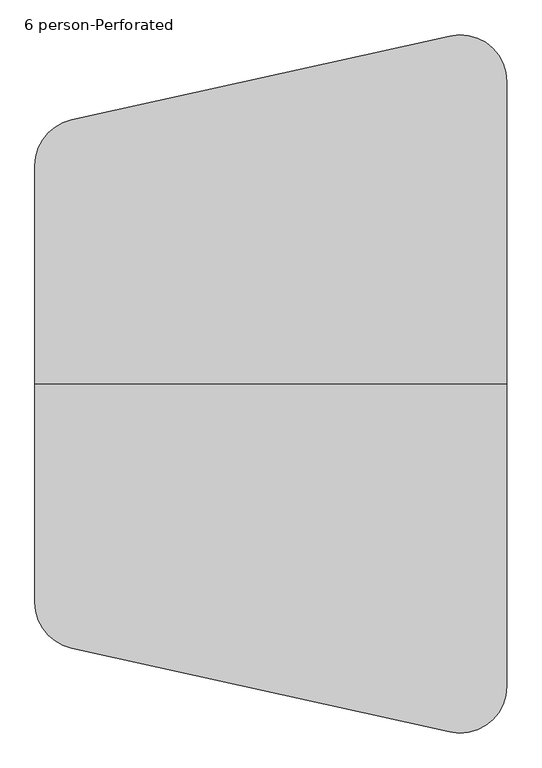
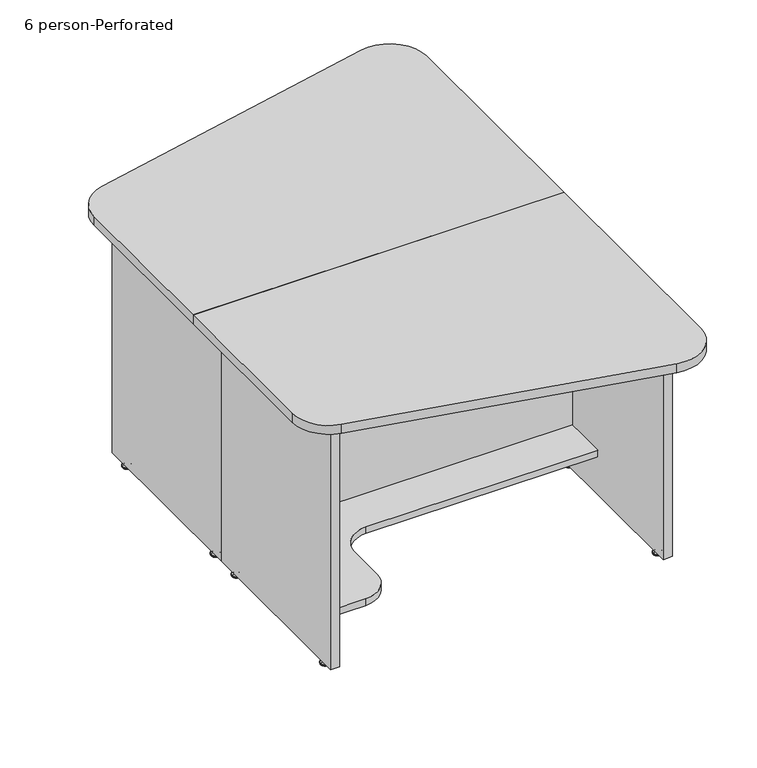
"""IFC4 building model written with IfcOpenShell, lengths in millimetres: furniture geometry, Nova Solutions - Collaboration Table - Keystone_6-7 person : 6 person-Perforated."""

from ifc_helpers import new_model, si_unit, point, frame, frame_2d, origin, place, context, project, spatial, polyline, circle_curve, ellipse_curve, trimmed, segment, composite_curve, outline, extrude, source, transform, mapped, element, save
from ifc_brep_helpers import plane_surface, cylinder_surface, revolved_surface, advanced_brep


def furniture_6_person_perforated_d60ef6a5(model_context):
    return source(origin(), model_context, "Body", "SolidModel", [
        extrude(outline(polyline([(736.3, -497.838), (736.3, -1392.138), (507.4, -1392.138), (507.4, -1221.138), (145.5, -1221.138), (145.5, -497.838), (736.3, -497.838)])), frame((0.0, 69.345, 0.0), z_axis=(0.0, 1.0, 0.0), x_axis=(0.0, 0.0, 1.0)), (0.0, 0.0, 1.0), 19.2),
        extrude(outline(composite_curve([segment(polyline([(-1392.138, 469.9075), (-1290.538, 469.9075)]), True, "CONTINUOUS"), segment(trimmed(circle_curve(frame_2d((-1290.538, 393.7075)), 76.2), [point((-1290.538, 469.9075))], [point((-1214.338, 393.7075))], False, "CARTESIAN"), True, "CONTINUOUS"), segment(polyline([(-1214.338, 393.7075), (-1214.338, 286.545)]), True, "CONTINUOUS"), segment(trimmed(circle_curve(frame_2d((-1138.138, 286.545)), 76.2), [point((-1214.338, 286.545))], [point((-1138.138, 210.345))], True, "CARTESIAN"), True, "CONTINUOUS"), segment(polyline([(-1138.138, 210.345), (-497.838, 210.345), (-497.838, 14.045), (-1392.138, 14.045), (-1392.138, 469.9075)]), True, "CONTINUOUS")], self_intersect=False)), frame((0.0, 0.0, 126.3), z_axis=(0.0, 0.0, 1.0), x_axis=(1.0, 0.0, 0.0)), (0.0, 0.0, 1.0), 19.2),
        advanced_brep(
        [(-1411.6656506, 474.3309375, 11.1125), (-1398.3103494, 474.3309375, 11.1125), (-1404.988, 474.3309375, 11.1125), (-1411.6656506, 474.3309375, 9.525), (-1398.3103494, 474.3309375, 9.525), (-1416.8735135, 474.3309375, 4.7748687), (-1393.1024865, 474.3309375, 4.7748687), (-1417.7346506, 474.3309375, 3.989419), (-1392.2413494, 474.3309375, 3.989419), (-1417.7346506, 474.3309375, 3.175), (-1392.2413494, 474.3309375, 3.175), (-1416.8839119, 474.3309375, 0.0), (-1393.0920881, 474.3309375, 0.0), (-1404.988, 474.3309375, 0.0)],
        [
            (0, 1, circle_curve(frame((-1404.988, 474.3309375, 11.1125), z_axis=(0.0, 0.0, 1.0), x_axis=(1.0, 0.0, 0.0)), 6.6776506)),
            (1, 2),
            (2, 0),
            (1, 0, circle_curve(frame((-1404.988, 474.3309375, 11.1125), z_axis=(0.0, 0.0, 1.0), x_axis=(1.0, 0.0, 0.0)), 6.6776506)),
            (3, 4, circle_curve(frame((-1404.988, 474.3309375, 9.525), z_axis=(0.0, 0.0, 1.0), x_axis=(1.0, 0.0, 0.0)), 6.6776506)),
            (4, 1),
            (0, 3),
            (4, 3, circle_curve(frame((-1404.988, 474.3309375, 9.525), z_axis=(0.0, 0.0, 1.0), x_axis=(1.0, 0.0, 0.0)), 6.6776506)),
            (5, 6, circle_curve(frame((-1404.988, 474.3309375, 4.7748687), z_axis=(0.0, 0.0, 1.0), x_axis=(1.0, 0.0, 0.0)), 11.8855135)),
            (6, 4, circle_curve(frame((-1392.0559373, 474.3309375, 11.1521822), z_axis=(0.0, 1.0, 0.0), x_axis=(-1.0, 0.0, 0.0)), 6.462615)),
            (3, 5, circle_curve(frame((-1417.9200627, 474.3309375, 11.1521822), z_axis=(0.0, 1.0, 0.0), x_axis=(1.0, 0.0, 0.0)), 6.462615)),
            (6, 5, circle_curve(frame((-1404.988, 474.3309375, 4.7748687), z_axis=(0.0, 0.0, 1.0), x_axis=(1.0, 0.0, 0.0)), 11.8855135)),
            (7, 8, circle_curve(frame((-1404.988, 474.3309375, 3.989419), z_axis=(0.0, 0.0, 1.0), x_axis=(1.0, 0.0, 0.0)), 12.7466506)),
            (8, 6, circle_curve(frame((-1393.2755368, 474.3309375, 3.7203591), z_axis=(0.0, -1.0, 0.0), x_axis=(-1.0, 0.0, 0.0)), 1.0686145)),
            (5, 7, circle_curve(frame((-1416.7004632, 474.3309375, 3.7203591), z_axis=(0.0, -1.0, 0.0), x_axis=(1.0, 0.0, 0.0)), 1.0686145)),
            (8, 7, circle_curve(frame((-1404.988, 474.3309375, 3.989419), z_axis=(0.0, 0.0, 1.0), x_axis=(1.0, 0.0, 0.0)), 12.7466506)),
            (9, 10, circle_curve(frame((-1404.988, 474.3309375, 3.175), z_axis=(0.0, 0.0, 1.0), x_axis=(1.0, 0.0, 0.0)), 12.7466506)),
            (10, 8),
            (7, 9),
            (10, 9, circle_curve(frame((-1404.988, 474.3309375, 3.175), z_axis=(0.0, 0.0, 1.0), x_axis=(1.0, 0.0, 0.0)), 12.7466506)),
            (11, 12, circle_curve(frame((-1404.988, 474.3309375, 0.0), z_axis=(0.0, 0.0, 1.0), x_axis=(1.0, 0.0, 0.0)), 11.8959119)),
            (12, 10),
            (9, 11),
            (12, 11, circle_curve(frame((-1404.988, 474.3309375, 0.0), z_axis=(0.0, 0.0, 1.0), x_axis=(1.0, 0.0, 0.0)), 11.8959119)),
            (13, 12),
            (11, 13),
        ],
        [
            plane_surface(frame((-1404.988, 474.3309375, 11.1125), z_axis=(0.0, 0.0, 1.0), x_axis=(1.0, 0.0, 0.0))),
            cylinder_surface(frame((-1404.988, 474.3309375, 43.2095994), z_axis=(0.0, 0.0, -1.0), x_axis=(1.0, 0.0, 0.0)), 6.6776506),
            revolved_surface(trimmed(ellipse_curve(frame((-1392.0559373, 474.3309375, 11.1521822), z_axis=(0.0, -1.0, 0.0), x_axis=(-1.0, 0.0, 0.0)), 6.462615, 6.462615), [point((-1398.3103494, 474.3309375, 9.525))], [point((-1393.1024865, 474.3309375, 4.7748687))], True, "CARTESIAN"), (-1404.988, 474.3309375, 43.2095994), (0.0, 0.0, -1.0)),
            revolved_surface(trimmed(ellipse_curve(frame((-1393.2755368, 474.3309375, 3.7203591), z_axis=(0.0, 1.0, 0.0), x_axis=(-1.0, 0.0, 0.0)), 1.0686145, 1.0686145), [point((-1393.1024865, 474.3309375, 4.7748687))], [point((-1392.2413494, 474.3309375, 3.989419))], True, "CARTESIAN"), (-1404.988, 474.3309375, 43.2095994), (0.0, 0.0, -1.0)),
            cylinder_surface(frame((-1404.988, 474.3309375, 43.2095994), z_axis=(0.0, 0.0, -1.0), x_axis=(1.0, 0.0, 0.0)), 12.7466506),
            revolved_surface(polyline([(-1392.2413494, 474.3309375, 3.175), (-1393.0920881, 474.3309375, 0.0)]), (-1404.988, 474.3309375, 43.2095994), (0.0, 0.0, -1.0)),
            plane_surface(frame((-1404.988, 474.3309375, 0.0), z_axis=(0.0, 0.0, -1.0), x_axis=(1.0, 0.0, 0.0))),
        ],
        [
            (0, [[1, 2, 3]]),
            (0, [[4, -3, -2]]),
            (1, [[5, 6, -1, 7]]),
            (1, [[8, -7, -4, -6]]),
            (2, [[9, 10, -5, 11]]),
            (2, [[12, -11, -8, -10]]),
            (3, [[13, 14, -9, 15]]),
            (3, [[16, -15, -12, -14]]),
            (4, [[17, 18, -13, 19]]),
            (4, [[20, -19, -16, -18]]),
            (5, [[21, 22, -17, 23]]),
            (5, [[24, -23, -20, -22]]),
            (6, [[25, -21, 26]]),
            (6, [[-26, -24, -25]]),
        ],
    ),
        advanced_brep(
        [(-1411.6656506, 50.3590625, 11.1125), (-1398.3103494, 50.3590625, 11.1125), (-1404.988, 50.3590625, 11.1125), (-1411.6656506, 50.3590625, 9.525), (-1398.3103494, 50.3590625, 9.525), (-1416.8735135, 50.3590625, 4.7748687), (-1393.1024865, 50.3590625, 4.7748687), (-1417.7346506, 50.3590625, 3.989419), (-1392.2413494, 50.3590625, 3.989419), (-1417.7346506, 50.3590625, 3.175), (-1392.2413494, 50.3590625, 3.175), (-1416.8839119, 50.3590625, 0.0), (-1393.0920881, 50.3590625, 0.0), (-1404.988, 50.3590625, 0.0)],
        [
            (0, 1, circle_curve(frame((-1404.988, 50.3590625, 11.1125), z_axis=(0.0, 0.0, 1.0), x_axis=(1.0, 0.0, 0.0)), 6.6776506)),
            (1, 2),
            (2, 0),
            (1, 0, circle_curve(frame((-1404.988, 50.3590625, 11.1125), z_axis=(0.0, 0.0, 1.0), x_axis=(1.0, 0.0, 0.0)), 6.6776506)),
            (3, 4, circle_curve(frame((-1404.988, 50.3590625, 9.525), z_axis=(0.0, 0.0, 1.0), x_axis=(1.0, 0.0, 0.0)), 6.6776506)),
            (4, 1),
            (0, 3),
            (4, 3, circle_curve(frame((-1404.988, 50.3590625, 9.525), z_axis=(0.0, 0.0, 1.0), x_axis=(1.0, 0.0, 0.0)), 6.6776506)),
            (5, 6, circle_curve(frame((-1404.988, 50.3590625, 4.7748687), z_axis=(0.0, 0.0, 1.0), x_axis=(1.0, 0.0, 0.0)), 11.8855135)),
            (6, 4, circle_curve(frame((-1392.0559373, 50.3590625, 11.1521822), z_axis=(0.0, 1.0, 0.0), x_axis=(-1.0, 0.0, 0.0)), 6.462615)),
            (3, 5, circle_curve(frame((-1417.9200627, 50.3590625, 11.1521822), z_axis=(0.0, 1.0, 0.0), x_axis=(1.0, 0.0, 0.0)), 6.462615)),
            (6, 5, circle_curve(frame((-1404.988, 50.3590625, 4.7748687), z_axis=(0.0, 0.0, 1.0), x_axis=(1.0, 0.0, 0.0)), 11.8855135)),
            (7, 8, circle_curve(frame((-1404.988, 50.3590625, 3.989419), z_axis=(0.0, 0.0, 1.0), x_axis=(1.0, 0.0, 0.0)), 12.7466506)),
            (8, 6, circle_curve(frame((-1393.2755368, 50.3590625, 3.7203591), z_axis=(0.0, -1.0, 0.0), x_axis=(-1.0, 0.0, 0.0)), 1.0686145)),
            (5, 7, circle_curve(frame((-1416.7004632, 50.3590625, 3.7203591), z_axis=(0.0, -1.0, 0.0), x_axis=(1.0, 0.0, 0.0)), 1.0686145)),
            (8, 7, circle_curve(frame((-1404.988, 50.3590625, 3.989419), z_axis=(0.0, 0.0, 1.0), x_axis=(1.0, 0.0, 0.0)), 12.7466506)),
            (9, 10, circle_curve(frame((-1404.988, 50.3590625, 3.175), z_axis=(0.0, 0.0, 1.0), x_axis=(1.0, 0.0, 0.0)), 12.7466506)),
            (10, 8),
            (7, 9),
            (10, 9, circle_curve(frame((-1404.988, 50.3590625, 3.175), z_axis=(0.0, 0.0, 1.0), x_axis=(1.0, 0.0, 0.0)), 12.7466506)),
            (11, 12, circle_curve(frame((-1404.988, 50.3590625, 0.0), z_axis=(0.0, 0.0, 1.0), x_axis=(1.0, 0.0, 0.0)), 11.8959119)),
            (12, 10),
            (9, 11),
            (12, 11, circle_curve(frame((-1404.988, 50.3590625, 0.0), z_axis=(0.0, 0.0, 1.0), x_axis=(1.0, 0.0, 0.0)), 11.8959119)),
            (13, 12),
            (11, 13),
        ],
        [
            plane_surface(frame((-1404.988, 50.3590625, 11.1125), z_axis=(0.0, 0.0, 1.0), x_axis=(1.0, 0.0, 0.0))),
            cylinder_surface(frame((-1404.988, 50.3590625, 43.2095994), z_axis=(0.0, 0.0, -1.0), x_axis=(1.0, 0.0, 0.0)), 6.6776506),
            revolved_surface(trimmed(ellipse_curve(frame((-1392.0559373, 50.3590625, 11.1521822), z_axis=(0.0, -1.0, 0.0), x_axis=(-1.0, 0.0, 0.0)), 6.462615, 6.462615), [point((-1398.3103494, 50.3590625, 9.525))], [point((-1393.1024865, 50.3590625, 4.7748687))], True, "CARTESIAN"), (-1404.988, 50.3590625, 43.2095994), (0.0, 0.0, -1.0)),
            revolved_surface(trimmed(ellipse_curve(frame((-1393.2755368, 50.3590625, 3.7203591), z_axis=(0.0, 1.0, 0.0), x_axis=(-1.0, 0.0, 0.0)), 1.0686145, 1.0686145), [point((-1393.1024865, 50.3590625, 4.7748687))], [point((-1392.2413494, 50.3590625, 3.989419))], True, "CARTESIAN"), (-1404.988, 50.3590625, 43.2095994), (0.0, 0.0, -1.0)),
            cylinder_surface(frame((-1404.988, 50.3590625, 43.2095994), z_axis=(0.0, 0.0, -1.0), x_axis=(1.0, 0.0, 0.0)), 12.7466506),
            revolved_surface(polyline([(-1392.2413494, 50.3590625, 3.175), (-1393.0920881, 50.3590625, 0.0)]), (-1404.988, 50.3590625, 43.2095994), (0.0, 0.0, -1.0)),
            plane_surface(frame((-1404.988, 50.3590625, 0.0), z_axis=(0.0, 0.0, -1.0), x_axis=(1.0, 0.0, 0.0))),
        ],
        [
            (0, [[1, 2, 3]]),
            (0, [[4, -3, -2]]),
            (1, [[5, 6, -1, 7]]),
            (1, [[8, -7, -4, -6]]),
            (2, [[9, 10, -5, 11]]),
            (2, [[12, -11, -8, -10]]),
            (3, [[13, 14, -9, 15]]),
            (3, [[16, -15, -12, -14]]),
            (4, [[17, 18, -13, 19]]),
            (4, [[20, -19, -16, -18]]),
            (5, [[21, 22, -17, 23]]),
            (5, [[24, -23, -20, -22]]),
            (6, [[25, -21, 26]]),
            (6, [[-26, -24, -25]]),
        ],
    ),
        extrude(outline(polyline([(-1417.838, 1.345), (-1417.838, 523.345), (-1392.138, 523.345), (-1392.138, 1.345), (-1417.838, 1.345)])), frame((0.0, 0.0, 15.6), z_axis=(0.0, 0.0, 1.0), x_axis=(1.0, 0.0, 0.0)), (0.0, 0.0, 1.0), 720.7),
        advanced_brep(
        [(-478.3103494, 474.3309375, 11.1125), (-484.988, 474.3309375, 11.1125), (-491.6656506, 474.3309375, 11.1125), (-478.3103494, 474.3309375, 9.525), (-491.6656506, 474.3309375, 9.525), (-473.1024865, 474.3309375, 4.7748687), (-496.8735135, 474.3309375, 4.7748687), (-472.2413494, 474.3309375, 3.989419), (-497.7346506, 474.3309375, 3.989419), (-472.2413494, 474.3309375, 3.175), (-497.7346506, 474.3309375, 3.175), (-473.0920881, 474.3309375, 0.0), (-496.8839119, 474.3309375, 0.0), (-484.988, 474.3309375, 0.0)],
        [
            (0, 1),
            (1, 2),
            (2, 0, circle_curve(frame((-484.988, 474.3309375, 11.1125), z_axis=(0.0, 0.0, 1.0), x_axis=(-1.0, 0.0, 0.0)), 6.6776506)),
            (0, 2, circle_curve(frame((-484.988, 474.3309375, 11.1125), z_axis=(0.0, 0.0, 1.0), x_axis=(-1.0, 0.0, 0.0)), 6.6776506)),
            (3, 0),
            (2, 4),
            (4, 3, circle_curve(frame((-484.988, 474.3309375, 9.525), z_axis=(0.0, 0.0, 1.0), x_axis=(-1.0, 0.0, 0.0)), 6.6776506)),
            (3, 4, circle_curve(frame((-484.988, 474.3309375, 9.525), z_axis=(0.0, 0.0, 1.0), x_axis=(-1.0, 0.0, 0.0)), 6.6776506)),
            (5, 3, circle_curve(frame((-472.0559373, 474.3309375, 11.1521822), z_axis=(0.0, 1.0, 0.0), x_axis=(-1.0, 0.0, 0.0)), 6.462615)),
            (4, 6, circle_curve(frame((-497.9200627, 474.3309375, 11.1521822), z_axis=(0.0, 1.0, 0.0), x_axis=(1.0, 0.0, 0.0)), 6.462615)),
            (6, 5, circle_curve(frame((-484.988, 474.3309375, 4.7748687), z_axis=(0.0, 0.0, 1.0), x_axis=(-1.0, 0.0, 0.0)), 11.8855135)),
            (5, 6, circle_curve(frame((-484.988, 474.3309375, 4.7748687), z_axis=(0.0, 0.0, 1.0), x_axis=(-1.0, 0.0, 0.0)), 11.8855135)),
            (7, 5, circle_curve(frame((-473.2755368, 474.3309375, 3.7203591), z_axis=(0.0, -1.0, 0.0), x_axis=(-1.0, 0.0, 0.0)), 1.0686145)),
            (6, 8, circle_curve(frame((-496.7004632, 474.3309375, 3.7203591), z_axis=(0.0, -1.0, 0.0), x_axis=(1.0, 0.0, 0.0)), 1.0686145)),
            (8, 7, circle_curve(frame((-484.988, 474.3309375, 3.989419), z_axis=(0.0, 0.0, 1.0), x_axis=(-1.0, 0.0, 0.0)), 12.7466506)),
            (7, 8, circle_curve(frame((-484.988, 474.3309375, 3.989419), z_axis=(0.0, 0.0, 1.0), x_axis=(-1.0, 0.0, 0.0)), 12.7466506)),
            (9, 7),
            (8, 10),
            (10, 9, circle_curve(frame((-484.988, 474.3309375, 3.175), z_axis=(0.0, 0.0, 1.0), x_axis=(-1.0, 0.0, 0.0)), 12.7466506)),
            (9, 10, circle_curve(frame((-484.988, 474.3309375, 3.175), z_axis=(0.0, 0.0, 1.0), x_axis=(-1.0, 0.0, 0.0)), 12.7466506)),
            (11, 9),
            (10, 12),
            (12, 11, circle_curve(frame((-484.988, 474.3309375, 0.0), z_axis=(0.0, 0.0, 1.0), x_axis=(-1.0, 0.0, 0.0)), 11.8959119)),
            (11, 12, circle_curve(frame((-484.988, 474.3309375, 0.0), z_axis=(0.0, 0.0, 1.0), x_axis=(-1.0, 0.0, 0.0)), 11.8959119)),
            (13, 11),
            (12, 13),
        ],
        [
            plane_surface(frame((-484.988, 474.3309375, 11.1125), z_axis=(0.0, 0.0, 1.0), x_axis=(-1.0, 0.0, 0.0))),
            cylinder_surface(frame((-484.988, 474.3309375, 43.2095994), z_axis=(0.0, 0.0, -1.0), x_axis=(-1.0, 0.0, 0.0)), 6.6776506),
            revolved_surface(trimmed(ellipse_curve(frame((-497.9200627, 474.3309375, 11.1521822), z_axis=(0.0, 1.0, 0.0), x_axis=(1.0, 0.0, 0.0)), 6.462615, 6.462615), [point((-491.6656506, 474.3309375, 9.525))], [point((-496.8735135, 474.3309375, 4.7748687))], True, "CARTESIAN"), (-484.988, 474.3309375, 43.2095994), (0.0, 0.0, -1.0)),
            revolved_surface(trimmed(ellipse_curve(frame((-496.7004632, 474.3309375, 3.7203591), z_axis=(0.0, -1.0, 0.0), x_axis=(1.0, 0.0, 0.0)), 1.0686145, 1.0686145), [point((-496.8735135, 474.3309375, 4.7748687))], [point((-497.7346506, 474.3309375, 3.989419))], True, "CARTESIAN"), (-484.988, 474.3309375, 43.2095994), (0.0, 0.0, -1.0)),
            cylinder_surface(frame((-484.988, 474.3309375, 43.2095994), z_axis=(0.0, 0.0, -1.0), x_axis=(-1.0, 0.0, 0.0)), 12.7466506),
            revolved_surface(polyline([(-497.7346506, 474.3309375, 3.175), (-496.8839119, 474.3309375, 0.0)]), (-484.988, 474.3309375, 43.2095994), (0.0, 0.0, -1.0)),
            plane_surface(frame((-484.988, 474.3309375, 0.0), z_axis=(0.0, 0.0, -1.0), x_axis=(-1.0, 0.0, 0.0))),
        ],
        [
            (0, [[1, 2, 3]]),
            (0, [[-2, -1, 4]]),
            (1, [[5, -3, 6, 7]]),
            (1, [[-6, -4, -5, 8]]),
            (2, [[9, -7, 10, 11]]),
            (2, [[-10, -8, -9, 12]]),
            (3, [[13, -11, 14, 15]]),
            (3, [[-14, -12, -13, 16]]),
            (4, [[17, -15, 18, 19]]),
            (4, [[-18, -16, -17, 20]]),
            (5, [[21, -19, 22, 23]]),
            (5, [[-22, -20, -21, 24]]),
            (6, [[25, -23, 26]]),
            (6, [[-26, -24, -25]]),
        ],
    ),
        advanced_brep(
        [(-478.3103494, 50.3590625, 11.1125), (-484.988, 50.3590625, 11.1125), (-491.6656506, 50.3590625, 11.1125), (-478.3103494, 50.3590625, 9.525), (-491.6656506, 50.3590625, 9.525), (-473.1024865, 50.3590625, 4.7748687), (-496.8735135, 50.3590625, 4.7748687), (-472.2413494, 50.3590625, 3.989419), (-497.7346506, 50.3590625, 3.989419), (-472.2413494, 50.3590625, 3.175), (-497.7346506, 50.3590625, 3.175), (-473.0920881, 50.3590625, 0.0), (-496.8839119, 50.3590625, 0.0), (-484.988, 50.3590625, 0.0)],
        [
            (0, 1),
            (1, 2),
            (2, 0, circle_curve(frame((-484.988, 50.3590625, 11.1125), z_axis=(0.0, 0.0, 1.0), x_axis=(-1.0, 0.0, 0.0)), 6.6776506)),
            (0, 2, circle_curve(frame((-484.988, 50.3590625, 11.1125), z_axis=(0.0, 0.0, 1.0), x_axis=(-1.0, 0.0, 0.0)), 6.6776506)),
            (3, 0),
            (2, 4),
            (4, 3, circle_curve(frame((-484.988, 50.3590625, 9.525), z_axis=(0.0, 0.0, 1.0), x_axis=(-1.0, 0.0, 0.0)), 6.6776506)),
            (3, 4, circle_curve(frame((-484.988, 50.3590625, 9.525), z_axis=(0.0, 0.0, 1.0), x_axis=(-1.0, 0.0, 0.0)), 6.6776506)),
            (5, 3, circle_curve(frame((-472.0559373, 50.3590625, 11.1521822), z_axis=(0.0, 1.0, 0.0), x_axis=(-1.0, 0.0, 0.0)), 6.462615)),
            (4, 6, circle_curve(frame((-497.9200627, 50.3590625, 11.1521822), z_axis=(0.0, 1.0, 0.0), x_axis=(1.0, 0.0, 0.0)), 6.462615)),
            (6, 5, circle_curve(frame((-484.988, 50.3590625, 4.7748687), z_axis=(0.0, 0.0, 1.0), x_axis=(-1.0, 0.0, 0.0)), 11.8855135)),
            (5, 6, circle_curve(frame((-484.988, 50.3590625, 4.7748687), z_axis=(0.0, 0.0, 1.0), x_axis=(-1.0, 0.0, 0.0)), 11.8855135)),
            (7, 5, circle_curve(frame((-473.2755368, 50.3590625, 3.7203591), z_axis=(0.0, -1.0, 0.0), x_axis=(-1.0, 0.0, 0.0)), 1.0686145)),
            (6, 8, circle_curve(frame((-496.7004632, 50.3590625, 3.7203591), z_axis=(0.0, -1.0, 0.0), x_axis=(1.0, 0.0, 0.0)), 1.0686145)),
            (8, 7, circle_curve(frame((-484.988, 50.3590625, 3.989419), z_axis=(0.0, 0.0, 1.0), x_axis=(-1.0, 0.0, 0.0)), 12.7466506)),
            (7, 8, circle_curve(frame((-484.988, 50.3590625, 3.989419), z_axis=(0.0, 0.0, 1.0), x_axis=(-1.0, 0.0, 0.0)), 12.7466506)),
            (9, 7),
            (8, 10),
            (10, 9, circle_curve(frame((-484.988, 50.3590625, 3.175), z_axis=(0.0, 0.0, 1.0), x_axis=(-1.0, 0.0, 0.0)), 12.7466506)),
            (9, 10, circle_curve(frame((-484.988, 50.3590625, 3.175), z_axis=(0.0, 0.0, 1.0), x_axis=(-1.0, 0.0, 0.0)), 12.7466506)),
            (11, 9),
            (10, 12),
            (12, 11, circle_curve(frame((-484.988, 50.3590625, 0.0), z_axis=(0.0, 0.0, 1.0), x_axis=(-1.0, 0.0, 0.0)), 11.8959119)),
            (11, 12, circle_curve(frame((-484.988, 50.3590625, 0.0), z_axis=(0.0, 0.0, 1.0), x_axis=(-1.0, 0.0, 0.0)), 11.8959119)),
            (13, 11),
            (12, 13),
        ],
        [
            plane_surface(frame((-484.988, 50.3590625, 11.1125), z_axis=(0.0, 0.0, 1.0), x_axis=(-1.0, 0.0, 0.0))),
            cylinder_surface(frame((-484.988, 50.3590625, 43.2095994), z_axis=(0.0, 0.0, -1.0), x_axis=(-1.0, 0.0, 0.0)), 6.6776506),
            revolved_surface(trimmed(ellipse_curve(frame((-497.9200627, 50.3590625, 11.1521822), z_axis=(0.0, 1.0, 0.0), x_axis=(1.0, 0.0, 0.0)), 6.462615, 6.462615), [point((-491.6656506, 50.3590625, 9.525))], [point((-496.8735135, 50.3590625, 4.7748687))], True, "CARTESIAN"), (-484.988, 50.3590625, 43.2095994), (0.0, 0.0, -1.0)),
            revolved_surface(trimmed(ellipse_curve(frame((-496.7004632, 50.3590625, 3.7203591), z_axis=(0.0, -1.0, 0.0), x_axis=(1.0, 0.0, 0.0)), 1.0686145, 1.0686145), [point((-496.8735135, 50.3590625, 4.7748687))], [point((-497.7346506, 50.3590625, 3.989419))], True, "CARTESIAN"), (-484.988, 50.3590625, 43.2095994), (0.0, 0.0, -1.0)),
            cylinder_surface(frame((-484.988, 50.3590625, 43.2095994), z_axis=(0.0, 0.0, -1.0), x_axis=(-1.0, 0.0, 0.0)), 12.7466506),
            revolved_surface(polyline([(-497.7346506, 50.3590625, 3.175), (-496.8839119, 50.3590625, 0.0)]), (-484.988, 50.3590625, 43.2095994), (0.0, 0.0, -1.0)),
            plane_surface(frame((-484.988, 50.3590625, 0.0), z_axis=(0.0, 0.0, -1.0), x_axis=(-1.0, 0.0, 0.0))),
        ],
        [
            (0, [[1, 2, 3]]),
            (0, [[-2, -1, 4]]),
            (1, [[5, -3, 6, 7]]),
            (1, [[-6, -4, -5, 8]]),
            (2, [[9, -7, 10, 11]]),
            (2, [[-10, -8, -9, 12]]),
            (3, [[13, -11, 14, 15]]),
            (3, [[-14, -12, -13, 16]]),
            (4, [[17, -15, 18, 19]]),
            (4, [[-18, -16, -17, 20]]),
            (5, [[21, -19, 22, 23]]),
            (5, [[-22, -20, -21, 24]]),
            (6, [[25, -23, 26]]),
            (6, [[-26, -24, -25]]),
        ],
    ),
        extrude(outline(polyline([(-472.138, 1.345), (-497.838, 1.345), (-497.838, 523.345), (-472.138, 523.345), (-472.138, 1.345)])), frame((0.0, 0.0, 15.6), z_axis=(0.0, 0.0, 1.0), x_axis=(1.0, 0.0, 0.0)), (0.0, 0.0, 1.0), 720.7),
        extrude(outline(composite_curve([segment(polyline([(-470.738, 0.0), (-1495.449, 0.0), (-1495.449, 474.3539957)]), True, "CONTINUOUS"), segment(trimmed(circle_curve(frame_2d((-1393.949, 474.3539957)), 101.5), [point((-1495.449, 474.3539957))], [point((-1415.9176208, 573.4480404))], False, "CARTESIAN"), True, "CONTINUOUS"), segment(polyline([(-1415.9176208, 573.4480404), (-594.2066208, 755.6169834)]), True, "CONTINUOUS"), segment(trimmed(circle_curve(frame_2d((-572.238, 656.5229386)), 101.5), [point((-594.2066208, 755.6169834))], [point((-470.738, 656.5229386))], False, "CARTESIAN"), True, "CONTINUOUS"), segment(polyline([(-470.738, 656.5229386), (-470.738, 0.0)]), True, "CONTINUOUS")], self_intersect=False)), frame((0.0, 0.0, 736.3), z_axis=(0.0, 0.0, 1.0), x_axis=(1.0, 0.0, 0.0)), (0.0, 0.0, 1.0), 25.7),
        extrude(outline(polyline([(145.5, -497.838), (736.3, -497.838), (736.3, -1392.138), (507.4, -1392.138), (507.4, -1221.138), (145.5, -1221.138), (145.5, -497.838)])), frame((0.0, -88.545, 0.0), z_axis=(0.0, 1.0, 0.0), x_axis=(0.0, 0.0, 1.0)), (0.0, 0.0, 1.0), 19.2),
        extrude(outline(composite_curve([segment(polyline([(-1392.138, -469.9075), (-1392.138, -14.045), (-497.838, -14.045), (-497.838, -210.345), (-1138.138, -210.345)]), True, "CONTINUOUS"), segment(trimmed(circle_curve(frame_2d((-1138.138, -286.545)), 76.2), [point((-1138.138, -210.345))], [point((-1214.338, -286.545))], True, "CARTESIAN"), True, "CONTINUOUS"), segment(polyline([(-1214.338, -286.545), (-1214.338, -393.7075)]), True, "CONTINUOUS"), segment(trimmed(circle_curve(frame_2d((-1290.538, -393.7075)), 76.2), [point((-1214.338, -393.7075))], [point((-1290.538, -469.9075))], False, "CARTESIAN"), True, "CONTINUOUS"), segment(polyline([(-1290.538, -469.9075), (-1392.138, -469.9075)]), True, "CONTINUOUS")], self_intersect=False)), frame((0.0, 0.0, 126.3), z_axis=(0.0, 0.0, 1.0), x_axis=(1.0, 0.0, 0.0)), (0.0, 0.0, 1.0), 19.2),
        advanced_brep(
        [(-1411.6656506, -474.3309375, 11.1125), (-1404.988, -474.3309375, 11.1125), (-1398.3103494, -474.3309375, 11.1125), (-1411.6656506, -474.3309375, 9.525), (-1398.3103494, -474.3309375, 9.525), (-1416.8735135, -474.3309375, 4.7748687), (-1393.1024865, -474.3309375, 4.7748687), (-1417.7346506, -474.3309375, 3.989419), (-1392.2413494, -474.3309375, 3.989419), (-1417.7346506, -474.3309375, 3.175), (-1392.2413494, -474.3309375, 3.175), (-1416.8839119, -474.3309375, 0.0), (-1393.0920881, -474.3309375, 0.0), (-1404.988, -474.3309375, 0.0)],
        [
            (0, 1),
            (1, 2),
            (2, 0, circle_curve(frame((-1404.988, -474.3309375, 11.1125), z_axis=(0.0, 0.0, 1.0), x_axis=(1.0, 0.0, 0.0)), 6.6776506)),
            (0, 2, circle_curve(frame((-1404.988, -474.3309375, 11.1125), z_axis=(0.0, 0.0, 1.0), x_axis=(1.0, 0.0, 0.0)), 6.6776506)),
            (3, 0),
            (2, 4),
            (4, 3, circle_curve(frame((-1404.988, -474.3309375, 9.525), z_axis=(0.0, 0.0, 1.0), x_axis=(1.0, 0.0, 0.0)), 6.6776506)),
            (3, 4, circle_curve(frame((-1404.988, -474.3309375, 9.525), z_axis=(0.0, 0.0, 1.0), x_axis=(1.0, 0.0, 0.0)), 6.6776506)),
            (5, 3, circle_curve(frame((-1417.9200627, -474.3309375, 11.1521822), z_axis=(0.0, -1.0, 0.0), x_axis=(1.0, 0.0, 0.0)), 6.462615)),
            (4, 6, circle_curve(frame((-1392.0559373, -474.3309375, 11.1521822), z_axis=(0.0, -1.0, 0.0), x_axis=(-1.0, 0.0, 0.0)), 6.462615)),
            (6, 5, circle_curve(frame((-1404.988, -474.3309375, 4.7748687), z_axis=(0.0, 0.0, 1.0), x_axis=(1.0, 0.0, 0.0)), 11.8855135)),
            (5, 6, circle_curve(frame((-1404.988, -474.3309375, 4.7748687), z_axis=(0.0, 0.0, 1.0), x_axis=(1.0, 0.0, 0.0)), 11.8855135)),
            (7, 5, circle_curve(frame((-1416.7004632, -474.3309375, 3.7203591), z_axis=(0.0, 1.0, 0.0), x_axis=(1.0, 0.0, 0.0)), 1.0686145)),
            (6, 8, circle_curve(frame((-1393.2755368, -474.3309375, 3.7203591), z_axis=(0.0, 1.0, 0.0), x_axis=(-1.0, 0.0, 0.0)), 1.0686145)),
            (8, 7, circle_curve(frame((-1404.988, -474.3309375, 3.989419), z_axis=(0.0, 0.0, 1.0), x_axis=(1.0, 0.0, 0.0)), 12.7466506)),
            (7, 8, circle_curve(frame((-1404.988, -474.3309375, 3.989419), z_axis=(0.0, 0.0, 1.0), x_axis=(1.0, 0.0, 0.0)), 12.7466506)),
            (9, 7),
            (8, 10),
            (10, 9, circle_curve(frame((-1404.988, -474.3309375, 3.175), z_axis=(0.0, 0.0, 1.0), x_axis=(1.0, 0.0, 0.0)), 12.7466506)),
            (9, 10, circle_curve(frame((-1404.988, -474.3309375, 3.175), z_axis=(0.0, 0.0, 1.0), x_axis=(1.0, 0.0, 0.0)), 12.7466506)),
            (11, 9),
            (10, 12),
            (12, 11, circle_curve(frame((-1404.988, -474.3309375, 0.0), z_axis=(0.0, 0.0, 1.0), x_axis=(1.0, 0.0, 0.0)), 11.8959119)),
            (11, 12, circle_curve(frame((-1404.988, -474.3309375, 0.0), z_axis=(0.0, 0.0, 1.0), x_axis=(1.0, 0.0, 0.0)), 11.8959119)),
            (13, 11),
            (12, 13),
        ],
        [
            plane_surface(frame((-1404.988, -474.3309375, 11.1125), z_axis=(0.0, 0.0, 1.0), x_axis=(1.0, 0.0, 0.0))),
            cylinder_surface(frame((-1404.988, -474.3309375, 43.2095994), z_axis=(0.0, 0.0, -1.0), x_axis=(1.0, 0.0, 0.0)), 6.6776506),
            revolved_surface(trimmed(ellipse_curve(frame((-1392.0559373, -474.3309375, 11.1521822), z_axis=(0.0, -1.0, 0.0), x_axis=(-1.0, 0.0, 0.0)), 6.462615, 6.462615), [point((-1398.3103494, -474.3309375, 9.525))], [point((-1393.1024865, -474.3309375, 4.7748687))], True, "CARTESIAN"), (-1404.988, -474.3309375, 43.2095994), (0.0, 0.0, -1.0)),
            revolved_surface(trimmed(ellipse_curve(frame((-1393.2755368, -474.3309375, 3.7203591), z_axis=(0.0, 1.0, 0.0), x_axis=(-1.0, 0.0, 0.0)), 1.0686145, 1.0686145), [point((-1393.1024865, -474.3309375, 4.7748687))], [point((-1392.2413494, -474.3309375, 3.989419))], True, "CARTESIAN"), (-1404.988, -474.3309375, 43.2095994), (0.0, 0.0, -1.0)),
            cylinder_surface(frame((-1404.988, -474.3309375, 43.2095994), z_axis=(0.0, 0.0, -1.0), x_axis=(1.0, 0.0, 0.0)), 12.7466506),
            revolved_surface(polyline([(-1392.2413494, -474.3309375, 3.175), (-1393.0920881, -474.3309375, 0.0)]), (-1404.988, -474.3309375, 43.2095994), (0.0, 0.0, -1.0)),
            plane_surface(frame((-1404.988, -474.3309375, 0.0), z_axis=(0.0, 0.0, -1.0), x_axis=(1.0, 0.0, 0.0))),
        ],
        [
            (0, [[1, 2, 3]]),
            (0, [[-2, -1, 4]]),
            (1, [[5, -3, 6, 7]]),
            (1, [[-6, -4, -5, 8]]),
            (2, [[9, -7, 10, 11]]),
            (2, [[-10, -8, -9, 12]]),
            (3, [[13, -11, 14, 15]]),
            (3, [[-14, -12, -13, 16]]),
            (4, [[17, -15, 18, 19]]),
            (4, [[-18, -16, -17, 20]]),
            (5, [[21, -19, 22, 23]]),
            (5, [[-22, -20, -21, 24]]),
            (6, [[25, -23, 26]]),
            (6, [[-26, -24, -25]]),
        ],
    ),
        advanced_brep(
        [(-1411.6656506, -50.3590625, 11.1125), (-1404.988, -50.3590625, 11.1125), (-1398.3103494, -50.3590625, 11.1125), (-1411.6656506, -50.3590625, 9.525), (-1398.3103494, -50.3590625, 9.525), (-1416.8735135, -50.3590625, 4.7748687), (-1393.1024865, -50.3590625, 4.7748687), (-1417.7346506, -50.3590625, 3.989419), (-1392.2413494, -50.3590625, 3.989419), (-1417.7346506, -50.3590625, 3.175), (-1392.2413494, -50.3590625, 3.175), (-1416.8839119, -50.3590625, 0.0), (-1393.0920881, -50.3590625, 0.0), (-1404.988, -50.3590625, 0.0)],
        [
            (0, 1),
            (1, 2),
            (2, 0, circle_curve(frame((-1404.988, -50.3590625, 11.1125), z_axis=(0.0, 0.0, 1.0), x_axis=(1.0, 0.0, 0.0)), 6.6776506)),
            (0, 2, circle_curve(frame((-1404.988, -50.3590625, 11.1125), z_axis=(0.0, 0.0, 1.0), x_axis=(1.0, 0.0, 0.0)), 6.6776506)),
            (3, 0),
            (2, 4),
            (4, 3, circle_curve(frame((-1404.988, -50.3590625, 9.525), z_axis=(0.0, 0.0, 1.0), x_axis=(1.0, 0.0, 0.0)), 6.6776506)),
            (3, 4, circle_curve(frame((-1404.988, -50.3590625, 9.525), z_axis=(0.0, 0.0, 1.0), x_axis=(1.0, 0.0, 0.0)), 6.6776506)),
            (5, 3, circle_curve(frame((-1417.9200627, -50.3590625, 11.1521822), z_axis=(0.0, -1.0, 0.0), x_axis=(1.0, 0.0, 0.0)), 6.462615)),
            (4, 6, circle_curve(frame((-1392.0559373, -50.3590625, 11.1521822), z_axis=(0.0, -1.0, 0.0), x_axis=(-1.0, 0.0, 0.0)), 6.462615)),
            (6, 5, circle_curve(frame((-1404.988, -50.3590625, 4.7748687), z_axis=(0.0, 0.0, 1.0), x_axis=(1.0, 0.0, 0.0)), 11.8855135)),
            (5, 6, circle_curve(frame((-1404.988, -50.3590625, 4.7748687), z_axis=(0.0, 0.0, 1.0), x_axis=(1.0, 0.0, 0.0)), 11.8855135)),
            (7, 5, circle_curve(frame((-1416.7004632, -50.3590625, 3.7203591), z_axis=(0.0, 1.0, 0.0), x_axis=(1.0, 0.0, 0.0)), 1.0686145)),
            (6, 8, circle_curve(frame((-1393.2755368, -50.3590625, 3.7203591), z_axis=(0.0, 1.0, 0.0), x_axis=(-1.0, 0.0, 0.0)), 1.0686145)),
            (8, 7, circle_curve(frame((-1404.988, -50.3590625, 3.989419), z_axis=(0.0, 0.0, 1.0), x_axis=(1.0, 0.0, 0.0)), 12.7466506)),
            (7, 8, circle_curve(frame((-1404.988, -50.3590625, 3.989419), z_axis=(0.0, 0.0, 1.0), x_axis=(1.0, 0.0, 0.0)), 12.7466506)),
            (9, 7),
            (8, 10),
            (10, 9, circle_curve(frame((-1404.988, -50.3590625, 3.175), z_axis=(0.0, 0.0, 1.0), x_axis=(1.0, 0.0, 0.0)), 12.7466506)),
            (9, 10, circle_curve(frame((-1404.988, -50.3590625, 3.175), z_axis=(0.0, 0.0, 1.0), x_axis=(1.0, 0.0, 0.0)), 12.7466506)),
            (11, 9),
            (10, 12),
            (12, 11, circle_curve(frame((-1404.988, -50.3590625, 0.0), z_axis=(0.0, 0.0, 1.0), x_axis=(1.0, 0.0, 0.0)), 11.8959119)),
            (11, 12, circle_curve(frame((-1404.988, -50.3590625, 0.0), z_axis=(0.0, 0.0, 1.0), x_axis=(1.0, 0.0, 0.0)), 11.8959119)),
            (13, 11),
            (12, 13),
        ],
        [
            plane_surface(frame((-1404.988, -50.3590625, 11.1125), z_axis=(0.0, 0.0, 1.0), x_axis=(1.0, 0.0, 0.0))),
            cylinder_surface(frame((-1404.988, -50.3590625, 43.2095994), z_axis=(0.0, 0.0, -1.0), x_axis=(1.0, 0.0, 0.0)), 6.6776506),
            revolved_surface(trimmed(ellipse_curve(frame((-1392.0559373, -50.3590625, 11.1521822), z_axis=(0.0, -1.0, 0.0), x_axis=(-1.0, 0.0, 0.0)), 6.462615, 6.462615), [point((-1398.3103494, -50.3590625, 9.525))], [point((-1393.1024865, -50.3590625, 4.7748687))], True, "CARTESIAN"), (-1404.988, -50.3590625, 43.2095994), (0.0, 0.0, -1.0)),
            revolved_surface(trimmed(ellipse_curve(frame((-1393.2755368, -50.3590625, 3.7203591), z_axis=(0.0, 1.0, 0.0), x_axis=(-1.0, 0.0, 0.0)), 1.0686145, 1.0686145), [point((-1393.1024865, -50.3590625, 4.7748687))], [point((-1392.2413494, -50.3590625, 3.989419))], True, "CARTESIAN"), (-1404.988, -50.3590625, 43.2095994), (0.0, 0.0, -1.0)),
            cylinder_surface(frame((-1404.988, -50.3590625, 43.2095994), z_axis=(0.0, 0.0, -1.0), x_axis=(1.0, 0.0, 0.0)), 12.7466506),
            revolved_surface(polyline([(-1392.2413494, -50.3590625, 3.175), (-1393.0920881, -50.3590625, 0.0)]), (-1404.988, -50.3590625, 43.2095994), (0.0, 0.0, -1.0)),
            plane_surface(frame((-1404.988, -50.3590625, 0.0), z_axis=(0.0, 0.0, -1.0), x_axis=(1.0, 0.0, 0.0))),
        ],
        [
            (0, [[1, 2, 3]]),
            (0, [[-2, -1, 4]]),
            (1, [[5, -3, 6, 7]]),
            (1, [[-6, -4, -5, 8]]),
            (2, [[9, -7, 10, 11]]),
            (2, [[-10, -8, -9, 12]]),
            (3, [[13, -11, 14, 15]]),
            (3, [[-14, -12, -13, 16]]),
            (4, [[17, -15, 18, 19]]),
            (4, [[-18, -16, -17, 20]]),
            (5, [[21, -19, 22, 23]]),
            (5, [[-22, -20, -21, 24]]),
            (6, [[25, -23, 26]]),
            (6, [[-26, -24, -25]]),
        ],
    ),
        extrude(outline(polyline([(-1417.838, -1.345), (-1392.138, -1.345), (-1392.138, -523.345), (-1417.838, -523.345), (-1417.838, -1.345)])), frame((0.0, 0.0, 15.6), z_axis=(0.0, 0.0, 1.0), x_axis=(1.0, 0.0, 0.0)), (0.0, 0.0, 1.0), 720.7),
        advanced_brep(
        [(-478.3103494, -474.3309375, 11.1125), (-491.6656506, -474.3309375, 11.1125), (-484.988, -474.3309375, 11.1125), (-478.3103494, -474.3309375, 9.525), (-491.6656506, -474.3309375, 9.525), (-473.1024865, -474.3309375, 4.7748687), (-496.8735135, -474.3309375, 4.7748687), (-472.2413494, -474.3309375, 3.989419), (-497.7346506, -474.3309375, 3.989419), (-472.2413494, -474.3309375, 3.175), (-497.7346506, -474.3309375, 3.175), (-473.0920881, -474.3309375, 0.0), (-496.8839119, -474.3309375, 0.0), (-484.988, -474.3309375, 0.0)],
        [
            (0, 1, circle_curve(frame((-484.988, -474.3309375, 11.1125), z_axis=(0.0, 0.0, 1.0), x_axis=(-1.0, 0.0, 0.0)), 6.6776506)),
            (1, 2),
            (2, 0),
            (1, 0, circle_curve(frame((-484.988, -474.3309375, 11.1125), z_axis=(0.0, 0.0, 1.0), x_axis=(-1.0, 0.0, 0.0)), 6.6776506)),
            (3, 4, circle_curve(frame((-484.988, -474.3309375, 9.525), z_axis=(0.0, 0.0, 1.0), x_axis=(-1.0, 0.0, 0.0)), 6.6776506)),
            (4, 1),
            (0, 3),
            (4, 3, circle_curve(frame((-484.988, -474.3309375, 9.525), z_axis=(0.0, 0.0, 1.0), x_axis=(-1.0, 0.0, 0.0)), 6.6776506)),
            (5, 6, circle_curve(frame((-484.988, -474.3309375, 4.7748687), z_axis=(0.0, 0.0, 1.0), x_axis=(-1.0, 0.0, 0.0)), 11.8855135)),
            (6, 4, circle_curve(frame((-497.9200627, -474.3309375, 11.1521822), z_axis=(0.0, -1.0, 0.0), x_axis=(1.0, 0.0, 0.0)), 6.462615)),
            (3, 5, circle_curve(frame((-472.0559373, -474.3309375, 11.1521822), z_axis=(0.0, -1.0, 0.0), x_axis=(-1.0, 0.0, 0.0)), 6.462615)),
            (6, 5, circle_curve(frame((-484.988, -474.3309375, 4.7748687), z_axis=(0.0, 0.0, 1.0), x_axis=(-1.0, 0.0, 0.0)), 11.8855135)),
            (7, 8, circle_curve(frame((-484.988, -474.3309375, 3.989419), z_axis=(0.0, 0.0, 1.0), x_axis=(-1.0, 0.0, 0.0)), 12.7466506)),
            (8, 6, circle_curve(frame((-496.7004632, -474.3309375, 3.7203591), z_axis=(0.0, 1.0, 0.0), x_axis=(1.0, 0.0, 0.0)), 1.0686145)),
            (5, 7, circle_curve(frame((-473.2755368, -474.3309375, 3.7203591), z_axis=(0.0, 1.0, 0.0), x_axis=(-1.0, 0.0, 0.0)), 1.0686145)),
            (8, 7, circle_curve(frame((-484.988, -474.3309375, 3.989419), z_axis=(0.0, 0.0, 1.0), x_axis=(-1.0, 0.0, 0.0)), 12.7466506)),
            (9, 10, circle_curve(frame((-484.988, -474.3309375, 3.175), z_axis=(0.0, 0.0, 1.0), x_axis=(-1.0, 0.0, 0.0)), 12.7466506)),
            (10, 8),
            (7, 9),
            (10, 9, circle_curve(frame((-484.988, -474.3309375, 3.175), z_axis=(0.0, 0.0, 1.0), x_axis=(-1.0, 0.0, 0.0)), 12.7466506)),
            (11, 12, circle_curve(frame((-484.988, -474.3309375, 0.0), z_axis=(0.0, 0.0, 1.0), x_axis=(-1.0, 0.0, 0.0)), 11.8959119)),
            (12, 10),
            (9, 11),
            (12, 11, circle_curve(frame((-484.988, -474.3309375, 0.0), z_axis=(0.0, 0.0, 1.0), x_axis=(-1.0, 0.0, 0.0)), 11.8959119)),
            (13, 12),
            (11, 13),
        ],
        [
            plane_surface(frame((-484.988, -474.3309375, 11.1125), z_axis=(0.0, 0.0, 1.0), x_axis=(-1.0, 0.0, 0.0))),
            cylinder_surface(frame((-484.988, -474.3309375, 43.2095994), z_axis=(0.0, 0.0, -1.0), x_axis=(-1.0, 0.0, 0.0)), 6.6776506),
            revolved_surface(trimmed(ellipse_curve(frame((-497.9200627, -474.3309375, 11.1521822), z_axis=(0.0, 1.0, 0.0), x_axis=(1.0, 0.0, 0.0)), 6.462615, 6.462615), [point((-491.6656506, -474.3309375, 9.525))], [point((-496.8735135, -474.3309375, 4.7748687))], True, "CARTESIAN"), (-484.988, -474.3309375, 43.2095994), (0.0, 0.0, -1.0)),
            revolved_surface(trimmed(ellipse_curve(frame((-496.7004632, -474.3309375, 3.7203591), z_axis=(0.0, -1.0, 0.0), x_axis=(1.0, 0.0, 0.0)), 1.0686145, 1.0686145), [point((-496.8735135, -474.3309375, 4.7748687))], [point((-497.7346506, -474.3309375, 3.989419))], True, "CARTESIAN"), (-484.988, -474.3309375, 43.2095994), (0.0, 0.0, -1.0)),
            cylinder_surface(frame((-484.988, -474.3309375, 43.2095994), z_axis=(0.0, 0.0, -1.0), x_axis=(-1.0, 0.0, 0.0)), 12.7466506),
            revolved_surface(polyline([(-497.7346506, -474.3309375, 3.175), (-496.8839119, -474.3309375, 0.0)]), (-484.988, -474.3309375, 43.2095994), (0.0, 0.0, -1.0)),
            plane_surface(frame((-484.988, -474.3309375, 0.0), z_axis=(0.0, 0.0, -1.0), x_axis=(-1.0, 0.0, 0.0))),
        ],
        [
            (0, [[1, 2, 3]]),
            (0, [[4, -3, -2]]),
            (1, [[5, 6, -1, 7]]),
            (1, [[8, -7, -4, -6]]),
            (2, [[9, 10, -5, 11]]),
            (2, [[12, -11, -8, -10]]),
            (3, [[13, 14, -9, 15]]),
            (3, [[16, -15, -12, -14]]),
            (4, [[17, 18, -13, 19]]),
            (4, [[20, -19, -16, -18]]),
            (5, [[21, 22, -17, 23]]),
            (5, [[24, -23, -20, -22]]),
            (6, [[25, -21, 26]]),
            (6, [[-26, -24, -25]]),
        ],
    ),
        advanced_brep(
        [(-478.3103494, -50.3590625, 11.1125), (-491.6656506, -50.3590625, 11.1125), (-484.988, -50.3590625, 11.1125), (-478.3103494, -50.3590625, 9.525), (-491.6656506, -50.3590625, 9.525), (-473.1024865, -50.3590625, 4.7748687), (-496.8735135, -50.3590625, 4.7748687), (-472.2413494, -50.3590625, 3.989419), (-497.7346506, -50.3590625, 3.989419), (-472.2413494, -50.3590625, 3.175), (-497.7346506, -50.3590625, 3.175), (-473.0920881, -50.3590625, 0.0), (-496.8839119, -50.3590625, 0.0), (-484.988, -50.3590625, 0.0)],
        [
            (0, 1, circle_curve(frame((-484.988, -50.3590625, 11.1125), z_axis=(0.0, 0.0, 1.0), x_axis=(-1.0, 0.0, 0.0)), 6.6776506)),
            (1, 2),
            (2, 0),
            (1, 0, circle_curve(frame((-484.988, -50.3590625, 11.1125), z_axis=(0.0, 0.0, 1.0), x_axis=(-1.0, 0.0, 0.0)), 6.6776506)),
            (3, 4, circle_curve(frame((-484.988, -50.3590625, 9.525), z_axis=(0.0, 0.0, 1.0), x_axis=(-1.0, 0.0, 0.0)), 6.6776506)),
            (4, 1),
            (0, 3),
            (4, 3, circle_curve(frame((-484.988, -50.3590625, 9.525), z_axis=(0.0, 0.0, 1.0), x_axis=(-1.0, 0.0, 0.0)), 6.6776506)),
            (5, 6, circle_curve(frame((-484.988, -50.3590625, 4.7748687), z_axis=(0.0, 0.0, 1.0), x_axis=(-1.0, 0.0, 0.0)), 11.8855135)),
            (6, 4, circle_curve(frame((-497.9200627, -50.3590625, 11.1521822), z_axis=(0.0, -1.0, 0.0), x_axis=(1.0, 0.0, 0.0)), 6.462615)),
            (3, 5, circle_curve(frame((-472.0559373, -50.3590625, 11.1521822), z_axis=(0.0, -1.0, 0.0), x_axis=(-1.0, 0.0, 0.0)), 6.462615)),
            (6, 5, circle_curve(frame((-484.988, -50.3590625, 4.7748687), z_axis=(0.0, 0.0, 1.0), x_axis=(-1.0, 0.0, 0.0)), 11.8855135)),
            (7, 8, circle_curve(frame((-484.988, -50.3590625, 3.989419), z_axis=(0.0, 0.0, 1.0), x_axis=(-1.0, 0.0, 0.0)), 12.7466506)),
            (8, 6, circle_curve(frame((-496.7004632, -50.3590625, 3.7203591), z_axis=(0.0, 1.0, 0.0), x_axis=(1.0, 0.0, 0.0)), 1.0686145)),
            (5, 7, circle_curve(frame((-473.2755368, -50.3590625, 3.7203591), z_axis=(0.0, 1.0, 0.0), x_axis=(-1.0, 0.0, 0.0)), 1.0686145)),
            (8, 7, circle_curve(frame((-484.988, -50.3590625, 3.989419), z_axis=(0.0, 0.0, 1.0), x_axis=(-1.0, 0.0, 0.0)), 12.7466506)),
            (9, 10, circle_curve(frame((-484.988, -50.3590625, 3.175), z_axis=(0.0, 0.0, 1.0), x_axis=(-1.0, 0.0, 0.0)), 12.7466506)),
            (10, 8),
            (7, 9),
            (10, 9, circle_curve(frame((-484.988, -50.3590625, 3.175), z_axis=(0.0, 0.0, 1.0), x_axis=(-1.0, 0.0, 0.0)), 12.7466506)),
            (11, 12, circle_curve(frame((-484.988, -50.3590625, 0.0), z_axis=(0.0, 0.0, 1.0), x_axis=(-1.0, 0.0, 0.0)), 11.8959119)),
            (12, 10),
            (9, 11),
            (12, 11, circle_curve(frame((-484.988, -50.3590625, 0.0), z_axis=(0.0, 0.0, 1.0), x_axis=(-1.0, 0.0, 0.0)), 11.8959119)),
            (13, 12),
            (11, 13),
        ],
        [
            plane_surface(frame((-484.988, -50.3590625, 11.1125), z_axis=(0.0, 0.0, 1.0), x_axis=(-1.0, 0.0, 0.0))),
            cylinder_surface(frame((-484.988, -50.3590625, 43.2095994), z_axis=(0.0, 0.0, -1.0), x_axis=(-1.0, 0.0, 0.0)), 6.6776506),
            revolved_surface(trimmed(ellipse_curve(frame((-497.9200627, -50.3590625, 11.1521822), z_axis=(0.0, 1.0, 0.0), x_axis=(1.0, 0.0, 0.0)), 6.462615, 6.462615), [point((-491.6656506, -50.3590625, 9.525))], [point((-496.8735135, -50.3590625, 4.7748687))], True, "CARTESIAN"), (-484.988, -50.3590625, 43.2095994), (0.0, 0.0, -1.0)),
            revolved_surface(trimmed(ellipse_curve(frame((-496.7004632, -50.3590625, 3.7203591), z_axis=(0.0, -1.0, 0.0), x_axis=(1.0, 0.0, 0.0)), 1.0686145, 1.0686145), [point((-496.8735135, -50.3590625, 4.7748687))], [point((-497.7346506, -50.3590625, 3.989419))], True, "CARTESIAN"), (-484.988, -50.3590625, 43.2095994), (0.0, 0.0, -1.0)),
            cylinder_surface(frame((-484.988, -50.3590625, 43.2095994), z_axis=(0.0, 0.0, -1.0), x_axis=(-1.0, 0.0, 0.0)), 12.7466506),
            revolved_surface(polyline([(-497.7346506, -50.3590625, 3.175), (-496.8839119, -50.3590625, 0.0)]), (-484.988, -50.3590625, 43.2095994), (0.0, 0.0, -1.0)),
            plane_surface(frame((-484.988, -50.3590625, 0.0), z_axis=(0.0, 0.0, -1.0), x_axis=(-1.0, 0.0, 0.0))),
        ],
        [
            (0, [[1, 2, 3]]),
            (0, [[4, -3, -2]]),
            (1, [[5, 6, -1, 7]]),
            (1, [[8, -7, -4, -6]]),
            (2, [[9, 10, -5, 11]]),
            (2, [[12, -11, -8, -10]]),
            (3, [[13, 14, -9, 15]]),
            (3, [[16, -15, -12, -14]]),
            (4, [[17, 18, -13, 19]]),
            (4, [[20, -19, -16, -18]]),
            (5, [[21, 22, -17, 23]]),
            (5, [[24, -23, -20, -22]]),
            (6, [[25, -21, 26]]),
            (6, [[-26, -24, -25]]),
        ],
    ),
        extrude(outline(polyline([(-472.138, -1.345), (-472.138, -523.345), (-497.838, -523.345), (-497.838, -1.345), (-472.138, -1.345)])), frame((0.0, 0.0, 15.6), z_axis=(0.0, 0.0, 1.0), x_axis=(1.0, 0.0, 0.0)), (0.0, 0.0, 1.0), 720.7),
        extrude(outline(composite_curve([segment(polyline([(-470.738, 0.0), (-470.738, -656.5229386)]), True, "CONTINUOUS"), segment(trimmed(circle_curve(frame_2d((-572.238, -656.5229386)), 101.5), [point((-470.738, -656.5229386))], [point((-594.2066208, -755.6169834))], False, "CARTESIAN"), True, "CONTINUOUS"), segment(polyline([(-594.2066208, -755.6169834), (-1415.9176208, -573.4480404)]), True, "CONTINUOUS"), segment(trimmed(circle_curve(frame_2d((-1393.949, -474.3539957)), 101.5), [point((-1415.9176208, -573.4480404))], [point((-1495.449, -474.3539957))], False, "CARTESIAN"), True, "CONTINUOUS"), segment(polyline([(-1495.449, -474.3539957), (-1495.449, 0.0), (-470.738, 0.0)]), True, "CONTINUOUS")], self_intersect=False)), frame((0.0, 0.0, 736.3), z_axis=(0.0, 0.0, 1.0), x_axis=(1.0, 0.0, 0.0)), (0.0, 0.0, 1.0), 25.7),
    ])


if __name__ == "__main__":
    model = new_model("IFC4")
    model_context = context("Model", 3, world=origin())
    ifc_project = project(units=[si_unit("LENGTHUNIT", "METRE", prefix="MILLI")], contexts=[model_context])
    site = spatial("IfcSite", under=ifc_project)
    building = spatial("IfcBuilding", under=site)
    placement = place(None, origin())
    furniture_6_person_perforated_shape = furniture_6_person_perforated_d60ef6a5(model_context)
    element("IfcFurniture", 1, ObjectType="Nova Solutions - Collaboration Table - Keystone_6-7 person : 6 person-Perforated", at=placement, inside=building, context=model_context, shape_type="MappedRepresentation", body=[
        mapped(furniture_6_person_perforated_shape, transform((0.0, 0.0, 0.0), x_axis=(1.0, 0.0, 0.0), y_axis=(0.0, 1.0, 0.0), z_axis=(0.0, 0.0, 1.0))),
    ])
    save(model, "model.ifc")
